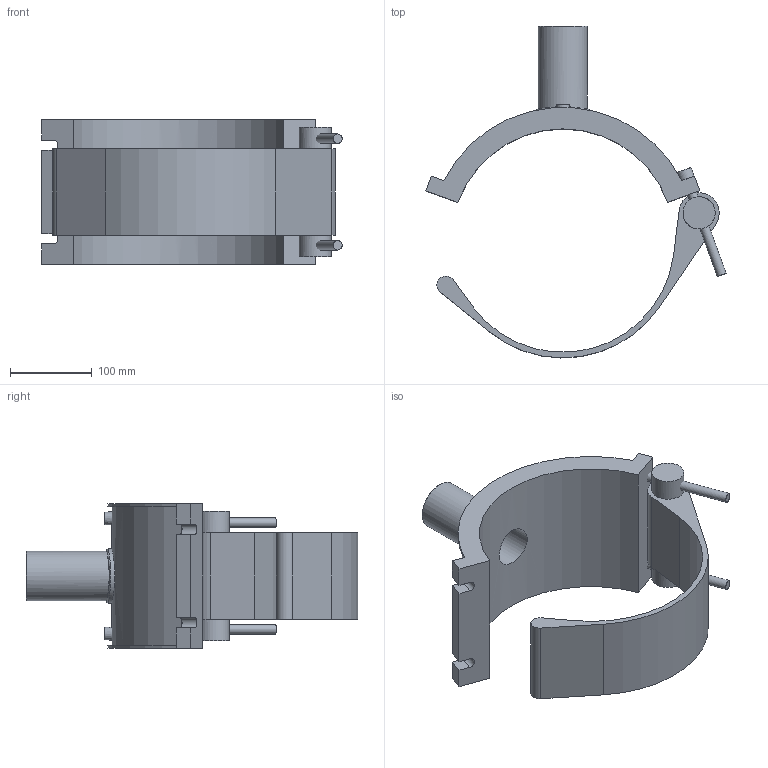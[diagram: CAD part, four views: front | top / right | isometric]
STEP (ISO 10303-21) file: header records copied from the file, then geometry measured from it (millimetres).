
FILE_DESCRIPTION(/* description */ ('PLASSON BRANCH SADDLE 10'''' x 2'''''),/* implementation_level */ '2;1');
FILE_NAME(/* name */ 'C:\Dropbox\KIMPROJECTS-Inventor 2019\99-16-3568-Processing Inch\ASTM ElectroFusion 2021\5958B-2\5958BB03100020.ipt.stp',/* time_stamp */ '2021-08-30T09:53:54+03:00',/* author */ ('KIM'),/* organization */ (''),/* preprocessor_version */ 'ST-DEVELOPER v17.2',/* originating_system */ 'Autodesk Inventor 2019',/* authorisation */ '');
FILE_SCHEMA (('AUTOMOTIVE_DESIGN { 1 0 10303 214 3 1 1 }'));
Length unit declared in the file: inch
Products named in the file (1): 5958BB03100020
Bounding box: 366.61 x 405.23 x 176.02 mm (x, y, z)
Volume: 2332019 mm3; surface area: 345689 mm2
Topology: 4 solids, 4 shells, 65 faces, 147 edges, 102 vertices
Faces by surface type: plane 37, cylinder 24, cone 3, bspline 1
Full cylindrical faces by diameter (mm): 4 x2, 10 x2, 11.453 x2, 19.089 x2, 39.269 x2, 48.08 x1, 60.1 x1, 66.11 x1
Entity records: 2276 total; most frequent: CARTESIAN_POINT 719, DIRECTION 322, ORIENTED_EDGE 294, EDGE_CURVE 147, AXIS2_PLACEMENT_3D 121, VERTEX_POINT 102, LINE 80, VECTOR 80
